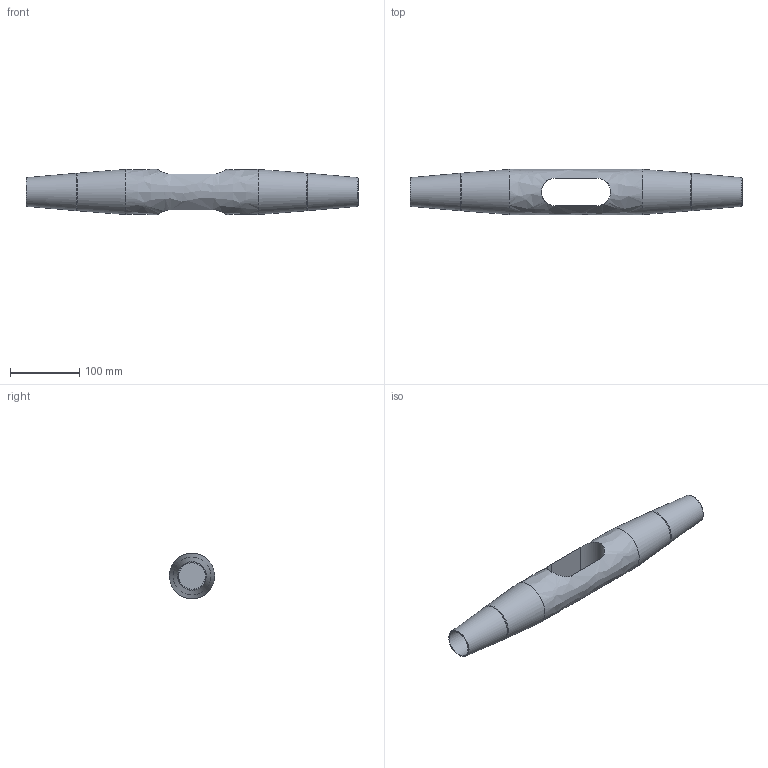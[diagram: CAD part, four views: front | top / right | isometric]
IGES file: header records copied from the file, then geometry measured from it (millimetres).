
Global section: file name: 520-036-KMF; native system: Autodesk Inventor 2016; preprocessor: unknown; author: Administrator; date: 20200702.132240; units: centimetre
Bounding box: 478 x 65 x 64.97 mm (x, y, z)
Volume: 941310.5 mm3; surface area: 109067.7 mm2
Topology: 1 solids, 1 shells, 21 faces, 53 edges, 36 vertices
Faces by surface type: bspline 21
